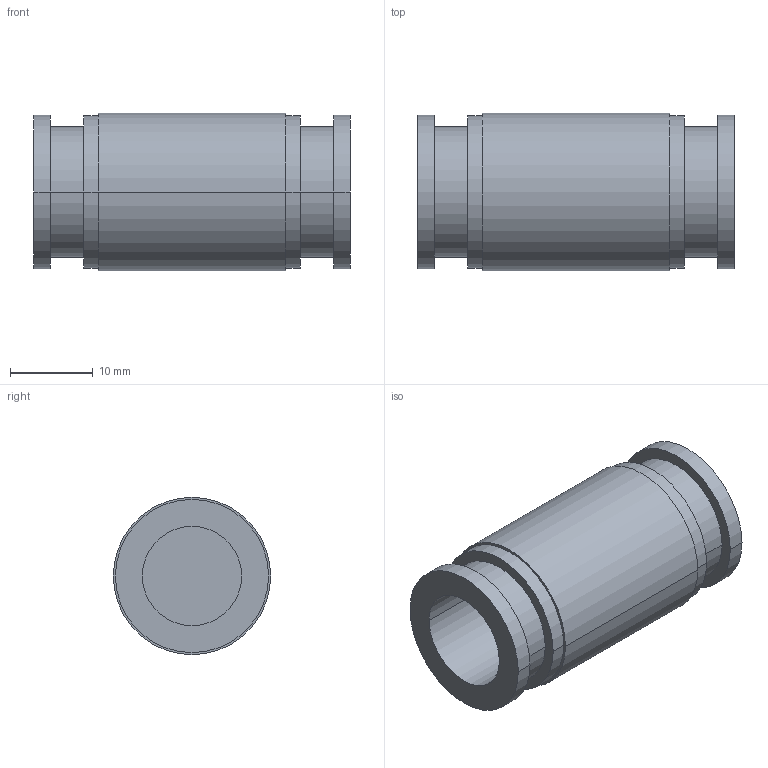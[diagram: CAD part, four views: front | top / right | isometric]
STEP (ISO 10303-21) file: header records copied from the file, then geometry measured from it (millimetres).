
FILE_DESCRIPTION( ( '' ), '1' );
FILE_NAME( 'G:/SMC狟婥/KQ2H12-00A.stp', '2023-03-07T02:57:17', ( '' ), ( '' ), ' ', ' ', ' ' );
FILE_SCHEMA( ( 'CONFIG_CONTROL_DESIGN' ) );
Length unit declared in the file: millimetre
Products named in the file (1): 1
Bounding box: 38.2 x 19 x 19 mm (x, y, z)
Volume: 5781.7 mm3; surface area: 4454.5 mm2
Topology: 1 solids, 1 shells, 28 faces, 54 edges, 36 vertices
Faces by surface type: cylinder 18, plane 10
Entity records: 778 total; most frequent: DIRECTION 148, CARTESIAN_POINT 119, ORIENTED_EDGE 108, AXIS2_PLACEMENT_3D 65, EDGE_CURVE 54, EDGE_LOOP 36, VERTEX_POINT 36, CIRCLE 36
